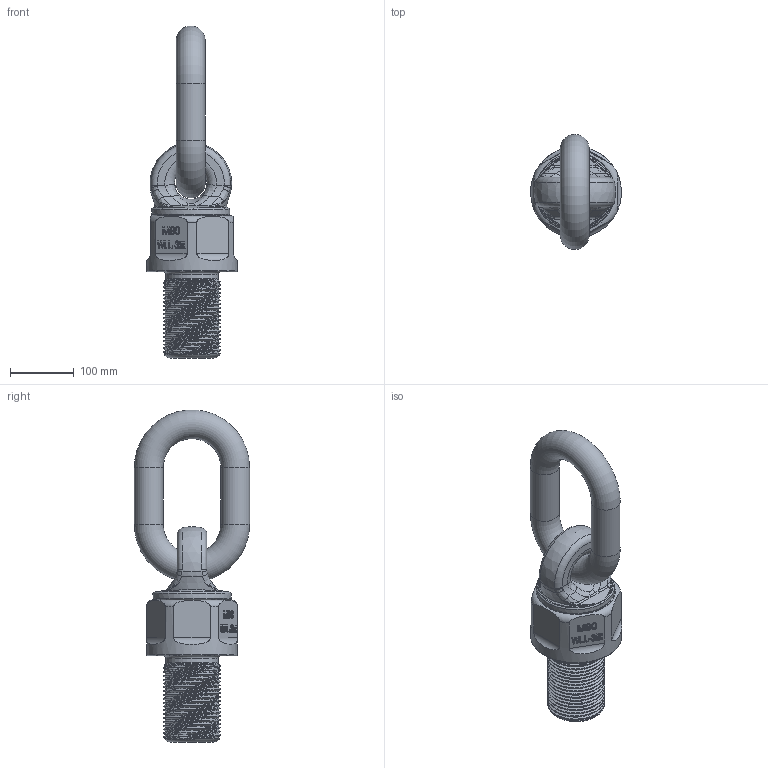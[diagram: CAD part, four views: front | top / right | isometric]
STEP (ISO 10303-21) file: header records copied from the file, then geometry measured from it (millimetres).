
FILE_DESCRIPTION(/* description */ (''),/* implementation_level */ '2;1');
FILE_NAME(/* name */ 'YTJ-M90.stp',/* time_stamp */ '2025-04-02T11:26:48+08:00',/* author */ (''),/* organization */ (''),/* preprocessor_version */ 'ST-DEVELOPER v16',/* originating_system */ 'SIEMENS PLM Software NX 10.0',/* authorisation */ '');
FILE_SCHEMA (('AP203_CONFIGURATION_CONTROLLED_3D_DESIGN_OF_MECHANICAL_PARTS_AND_ASSEMBLIES_MIM_LF { 1 0 10303 403 2 1 2}'));
Length unit declared in the file: millimetre
Products named in the file (1): Admi177C9AD32ibe
Bounding box: 142 x 180 x 518.85 mm (x, y, z)
Volume: 3620239.7 mm3; surface area: 291063.7 mm2
Topology: 3 solids, 3 shells, 280 faces, 710 edges, 447 vertices
Faces by surface type: plane 117, bspline 62, extrusion 46, cylinder 23, torus 22, cone 5, sphere 5
Full cylindrical faces by diameter (mm): 45 x2, 81.7 x1, 82 x2, 122 x1, 142 x1
Entity records: 15956 total; most frequent: CARTESIAN_POINT 9974, ORIENTED_EDGE 1338, DIRECTION 960, EDGE_CURVE 669, VERTEX_POINT 434, AXIS2_PLACEMENT_3D 334, EDGE_LOOP 321, B_SPLINE_CURVE_WITH_KNOTS 307
